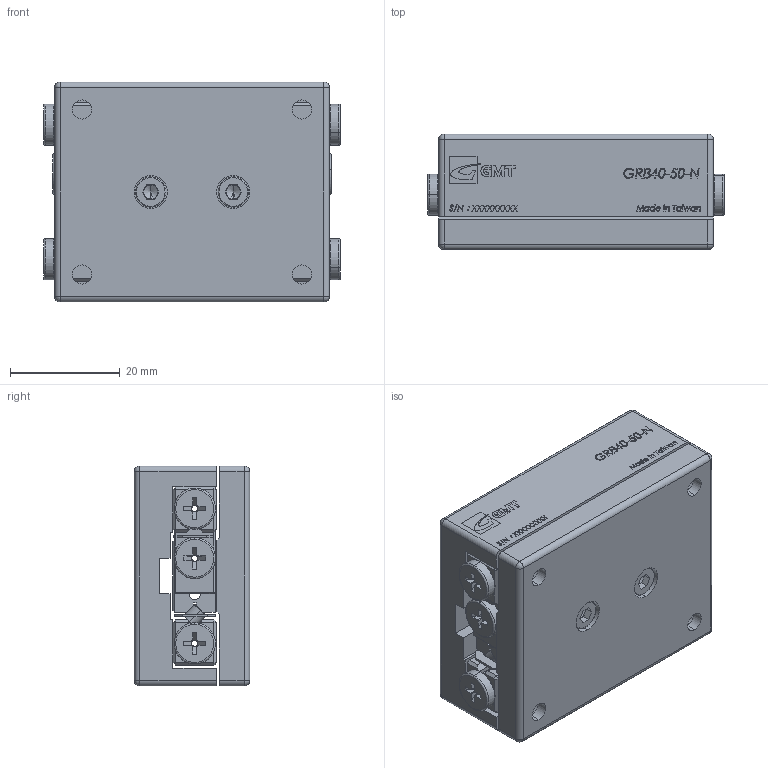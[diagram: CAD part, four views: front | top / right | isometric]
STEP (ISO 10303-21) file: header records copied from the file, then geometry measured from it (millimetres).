
FILE_DESCRIPTION (( 'STEP AP203' ), '1' );
FILE_NAME ('GRB40-50.STEP', '2012-10-19T05:15:43', ( '123' ), ( '' ), 'SwSTEP 2.0', 'SolidWorks 2012', '' );
FILE_SCHEMA (( 'CONFIG_CONTROL_DESIGN' ));
Length unit declared in the file: millimetre
Products named in the file (1): GRB40-50
Bounding box: 54 x 21 x 40 mm (x, y, z)
Surface area: 16528.3 mm2 (no closed solid volume)
Topology: 0 solids, 48 shells, 576 faces, 2536 edges, 1960 vertices
Faces by surface type: plane 388, cylinder 85, cone 40, torus 38, bspline 17, sphere 8
Entity records: 29928 total; most frequent: CARTESIAN_POINT 10254, DIRECTION 3728, ORIENTED_EDGE 3582, EDGE_CURVE 2516, VERTEX_POINT 1960, LINE 1684, VECTOR 1684, AXIS2_PLACEMENT_3D 1022
